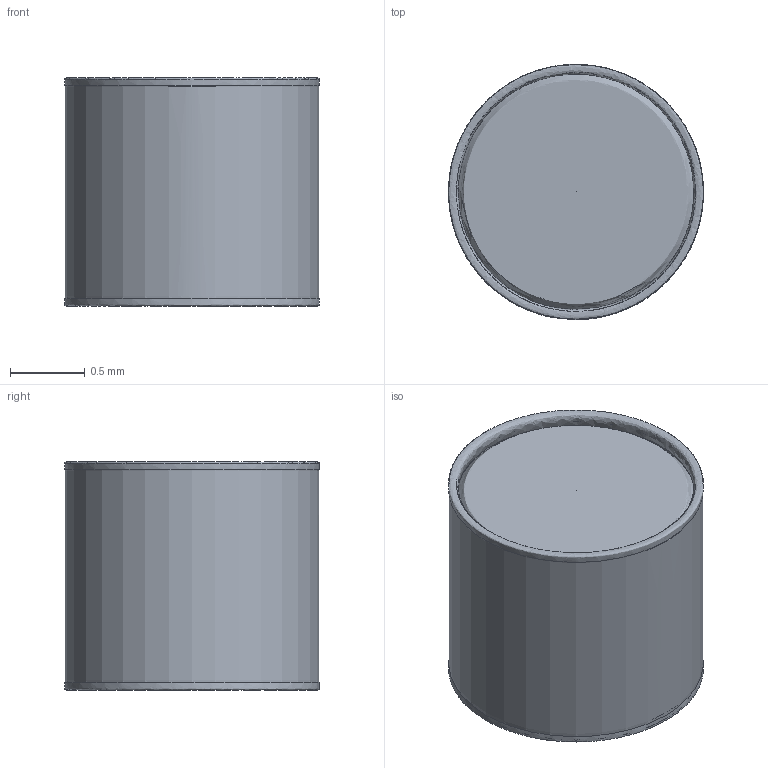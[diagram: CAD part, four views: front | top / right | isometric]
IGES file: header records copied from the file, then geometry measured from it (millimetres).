
Global section: file name: /home/lore/2005/xcmodel_3.2/surfaces/Tom2.igs; native system: XCMODEL ver.3.0 Universita' di Bologna; preprocessor: formato IGES Nov. 2001; date: 060219.233330; units: millimetre
Bounding box: 1.71 x 1.71 x 1.53 mm (x, y, z)
Surface area: 13.5 mm2 (no closed solid volume)
Topology: 0 solids, 0 shells, 5 faces, 15 edges, 10 vertices
Faces by surface type: bspline 5
